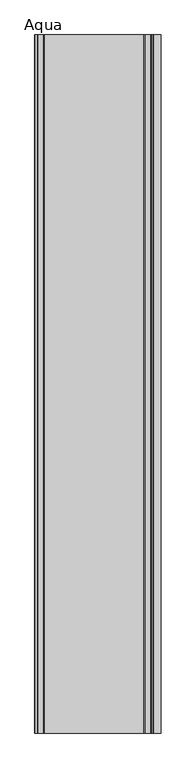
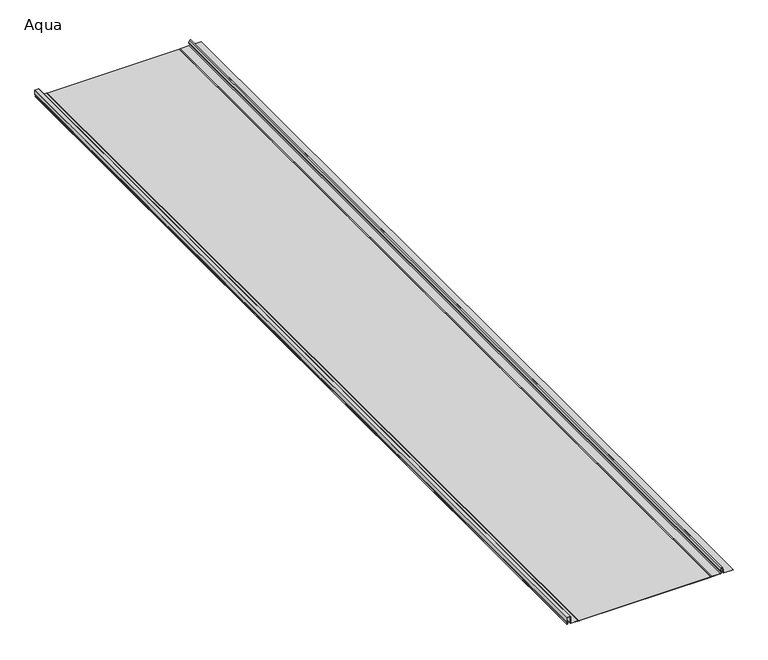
"""IFC4 building model written with IfcOpenShell, lengths in millimetres: proxy geometry, AQUAPLAST - Panel Dachowy i Elewacyjny Aqua : Aqua."""

import ifcopenshell
import ifcopenshell.guid

model = None  # the IFC model being written
_history = None  # IfcOwnerHistory: only IFC2X3 demands one
_inside = {}  # id of a spatial element -> (the spatial element, [elements in it])
_under = {}  # id of a project, library or spatial element -> (it, [spatial elements below it])
_declared = {}  # id of a project -> (the project, [libraries it declares])
_typed = {}  # id of a type object -> (the type object, [elements of that type])
_made_of = {}  # id of a material, layer set ... -> (it, [elements and type objects made of it])


def new_model(schema):
    """Start an empty IFC model of exactly this schema.

    Asked for "IFC4X3", IfcOpenShell would pick the latest addendum, in which some entities
    have other attributes; the version numbers below select the first issue.
    IFC2X3 requires an IfcOwnerHistory on every rooted entity: one is made here for all.
    """
    global model, _history
    if schema == "IFC4X3":
        model = ifcopenshell.file(schema_version=(4, 3, 0, 0))
    else:
        model = ifcopenshell.file(schema=schema)
    _inside.clear()
    _under.clear()
    _declared.clear()
    _typed.clear()
    _made_of.clear()
    _history = None
    if model.schema == "IFC2X3":
        org = make("IfcOrganization", Name="unknown")
        user = make(
            "IfcPersonAndOrganization",
            ThePerson=make("IfcPerson", FamilyName="unknown"),
            TheOrganization=org,
        )
        app = make(
            "IfcApplication",
            ApplicationDeveloper=org,
            Version="unknown",
            ApplicationFullName="unknown",
            ApplicationIdentifier="unknown",
        )
        _history = make(
            "IfcOwnerHistory",
            OwningUser=user,
            OwningApplication=app,
            ChangeAction="ADDED",
            CreationDate=0,
        )
    return model


def make(cls, **values):
    """One entity of the class cls with the attributes given. An attribute that is None is left unset."""
    return model.create_entity(
        cls, **{name: value for name, value in values.items() if value is not None}
    )


def rooted(cls, **values):
    """An entity with a GlobalId (a new one), such as an element, a storey or a relation."""
    return make(cls, GlobalId=ifcopenshell.guid.new(), OwnerHistory=_history, **values)


def si_unit(unit_type, name, prefix=None):
    """IfcSIUnit, for example si_unit("LENGTHUNIT", "METRE", prefix="MILLI")."""
    return make("IfcSIUnit", UnitType=unit_type, Prefix=prefix, Name=name)


def assignment(units):
    """IfcUnitAssignment: the units of a project."""
    return None if units is None else make("IfcUnitAssignment", Units=units)


def point(xyz):
    """IfcCartesianPoint."""
    return None if xyz is None else make("IfcCartesianPoint", Coordinates=xyz)


def direction(xyz):
    """IfcDirection."""
    return None if xyz is None else make("IfcDirection", DirectionRatios=xyz)


def frame(location, z_axis=None, x_axis=None):
    """IfcAxis2Placement3D, a coordinate frame: its origin and axes. An axis left out is left unset."""
    return make(
        "IfcAxis2Placement3D",
        Location=point(location),
        Axis=direction(z_axis),
        RefDirection=direction(x_axis),
    )


def frame_2d(location, x_axis=None):
    """IfcAxis2Placement2D, a coordinate frame in the plane: its origin and x axis."""
    return make(
        "IfcAxis2Placement2D", Location=point(location), RefDirection=direction(x_axis)
    )


def origin():
    """The frame at (0, 0, 0) with its axes left unset."""
    return frame((0.0, 0.0, 0.0))


def origin_with_axes():
    """The frame at (0, 0, 0) with the z axis (0, 0, 1) and the x axis (1, 0, 0) written out."""
    return frame((0.0, 0.0, 0.0), z_axis=(0.0, 0.0, 1.0), x_axis=(1.0, 0.0, 0.0))


def place(relative_to, where):
    """IfcLocalPlacement: puts the frame where relative to a parent placement (None: the world)."""
    return make(
        "IfcLocalPlacement", PlacementRelTo=relative_to, RelativePlacement=where
    )


def context(
    kind, dimensions, precision=None, world=None, true_north=None, identifier=None
):
    """IfcGeometricRepresentationContext, for example the 3D "Model" context."""
    return make(
        "IfcGeometricRepresentationContext",
        ContextIdentifier=identifier,
        ContextType=kind,
        CoordinateSpaceDimension=dimensions,
        Precision=precision,
        WorldCoordinateSystem=world,
        TrueNorth=true_north,
    )


def project(units=None, contexts=None):
    """IfcProject with its units and contexts."""
    return rooted(
        "IfcProject",
        Name="project",
        RepresentationContexts=contexts,
        UnitsInContext=assignment(units),
    )


def spatial(cls, under=None, at=None, **own):
    """A site, building, storey or space (cls), placed at a placement, below another one or the project."""
    s = rooted(cls, ObjectPlacement=at, **own)
    if under is not None:
        _under.setdefault(under.id(), (under, []))[1].append(s)
    return s


def polyline(points):
    """IfcPolyline through the points."""
    return make("IfcPolyline", Points=[point(p) for p in points])


def circle_curve(where, radius):
    """IfcCircle in the frame where."""
    return make("IfcCircle", Position=where, Radius=radius)


def trimmed(basis, trim1, trim2, sense, master):
    """IfcTrimmedCurve: the piece of a basis curve between two trims."""
    return make(
        "IfcTrimmedCurve",
        BasisCurve=basis,
        Trim1=trim1,
        Trim2=trim2,
        SenseAgreement=sense,
        MasterRepresentation=master,
    )


def segment(curve, same_sense, transition):
    """IfcCompositeCurveSegment."""
    return make(
        "IfcCompositeCurveSegment",
        Transition=transition,
        SameSense=same_sense,
        ParentCurve=curve,
    )


def composite_curve(segments, self_intersect=None):
    """IfcCompositeCurve: segments joined end to end."""
    return make("IfcCompositeCurve", Segments=segments, SelfIntersect=self_intersect)


def outline(outer, holes=None, kind="AREA"):
    """IfcArbitraryClosedProfileDef: a profile drawn as a closed curve; with holes, ...WithVoids."""
    if holes is None:
        return make("IfcArbitraryClosedProfileDef", ProfileType=kind, OuterCurve=outer)
    return make(
        "IfcArbitraryProfileDefWithVoids",
        ProfileType=kind,
        OuterCurve=outer,
        InnerCurves=holes,
    )


def extrude(swept, where, along, depth):
    """IfcExtrudedAreaSolid: the profile swept, set in the frame where, extruded along a direction by depth."""
    return make(
        "IfcExtrudedAreaSolid",
        SweptArea=swept,
        Position=where,
        ExtrudedDirection=direction(along),
        Depth=depth,
    )


def shape(context_of_items, identifier, shape_type, items):
    """IfcShapeRepresentation: the items that make up one representation, for example the "Body"."""
    return make(
        "IfcShapeRepresentation",
        ContextOfItems=context_of_items,
        RepresentationIdentifier=identifier,
        RepresentationType=shape_type,
        Items=items,
    )


def source(mapping_origin, context_of_items, identifier, shape_type, items):
    """IfcRepresentationMap: a shape defined once, which mapped items show again and again."""
    return make(
        "IfcRepresentationMap",
        MappingOrigin=mapping_origin,
        MappedRepresentation=shape(context_of_items, identifier, shape_type, items),
    )


def transform(
    local_origin,
    x_axis=None,
    y_axis=None,
    z_axis=None,
    scale=None,
    scale2=None,
    scale3=None,
    uniform=True,
):
    """IfcCartesianTransformationOperator3D, or its non-uniform kind. x_axis, y_axis, z_axis: its Axis1, 2, 3."""
    if uniform:
        return make(
            "IfcCartesianTransformationOperator3D",
            Axis1=direction(x_axis),
            Axis2=direction(y_axis),
            LocalOrigin=point(local_origin),
            Scale=scale,
            Axis3=direction(z_axis),
        )
    return make(
        "IfcCartesianTransformationOperator3DnonUniform",
        Axis1=direction(x_axis),
        Axis2=direction(y_axis),
        LocalOrigin=point(local_origin),
        Scale=scale,
        Axis3=direction(z_axis),
        Scale2=scale2,
        Scale3=scale3,
    )


def mapped(mapping_source, mapping_target):
    """IfcMappedItem: shows the shape of a source again, moved by a transform."""
    return make(
        "IfcMappedItem", MappingSource=mapping_source, MappingTarget=mapping_target
    )


def made_of(thing, what):
    """Note that an element or type object is made of a material, layer set ...; save() writes the relation."""
    if what is not None:
        _made_of.setdefault(what.id(), (what, []))[1].append(thing)
    return thing


def element(
    cls,
    number,
    at=None,
    inside=None,
    cuts=None,
    type_object=None,
    material=None,
    context=None,
    identifier="Body",
    shape_type=None,
    held_by="IfcProductDefinitionShape",
    body=None,
    shapes=None,
    **own,
):
    """One element of the class cls, such as IfcWall. Its Tag is "e" and its number.

    at: its placement. inside: the storey or other place that contains it. cuts: it is an
    opening in that element (IfcRelVoidsElement). A single representation is given by context,
    identifier, shape_type and body (its items); several are given by shapes. held_by: the class
    of the entity that holds the representations. save() writes the other relations.
    """
    e = rooted(cls, Tag="e%d" % number, ObjectPlacement=at, **own)
    if body is not None:
        shapes = [shape(context, identifier, shape_type, body)]
    if shapes is not None:
        e.Representation = make(held_by, Representations=shapes)
    if inside is not None:
        _inside.setdefault(inside.id(), (inside, []))[1].append(e)
    if cuts is not None:
        rooted(
            "IfcRelVoidsElement", RelatingBuildingElement=cuts, RelatedOpeningElement=e
        )
    if type_object is not None:
        _typed.setdefault(type_object.id(), (type_object, []))[1].append(e)
    return made_of(e, material)


def aggregate(whole, parts):
    """IfcRelAggregates: a whole, such as a stair, and the parts it consists of."""
    return rooted("IfcRelAggregates", RelatingObject=whole, RelatedObjects=parts)


def save(model, path):
    """Write the relations noted so far, then the file.

    IfcRelAggregates (storeys below a building ...), IfcRelContainedInSpatialStructure (elements
    in a storey), IfcRelDefinesByType, IfcRelAssociatesMaterial and IfcRelDeclares: one each for
    every whole, place, type object, material and project.
    """
    for whole, parts in _under.values():
        aggregate(whole, parts)
    for where, things in _inside.values():
        rooted(
            "IfcRelContainedInSpatialStructure",
            RelatedElements=things,
            RelatingStructure=where,
        )
    for kind, things in _typed.values():
        rooted("IfcRelDefinesByType", RelatedObjects=things, RelatingType=kind)
    for what, things in _made_of.values():
        rooted("IfcRelAssociatesMaterial", RelatedObjects=things, RelatingMaterial=what)
    for by, libraries in _declared.values():
        rooted("IfcRelDeclares", RelatingContext=by, RelatedDefinitions=libraries)
    model.write(path)


def aqua_52c9d04e(model_context):
    return source(origin(), model_context, "Body", "SweptSolid", [
        extrude(outline(composite_curve([segment(polyline([(0.8, 270.9), (0.8, 240.520912)]), True, "CONTINUOUS"), segment(trimmed(circle_curve(frame_2d((1.4640676, 240.520912)), 0.6640676), [point((0.8, 240.520912))], [point((1.3501315, 239.8666916))], True, "CARTESIAN"), True, "CONTINUOUS"), segment(polyline([(1.3501315, 239.8666916), (18.7653554, 236.8337349)]), True, "CONTINUOUS"), segment(trimmed(circle_curve(frame_2d((18.1818617, 234.1906389)), 2.7067363), [point((18.7653554, 236.8337349))], [point((19.5352298, 231.8465366))], False, "CARTESIAN"), True, "CONTINUOUS"), segment(polyline([(19.5352298, 231.8465366), (12.1941629, 228.8862764)]), True, "CONTINUOUS"), segment(trimmed(circle_curve(frame_2d((11.2676679, 231.1838657)), 2.4773594), [point((12.1941629, 228.8862764))], [point((9.0024093, 230.1809133))], False, "CARTESIAN"), True, "CONTINUOUS"), segment(trimmed(circle_curve(frame_2d((5.4667311, 228.6154775)), 3.8667311), [point((9.0024093, 230.1809133))], [point((1.6, 228.6154775))], True, "CARTESIAN"), True, "CONTINUOUS"), segment(polyline([(1.6, 228.6154775), (1.6, 201.7000503), (0.8, 198.2000503), (0.0, 198.2000503), (0.8, 201.7000503), (0.8, 228.4563021)]), True, "CONTINUOUS"), segment(trimmed(circle_curve(frame_2d((5.5014361, 228.4563021)), 4.7014361), [point((0.8, 228.4563021))], [point((9.7513874, 230.4666293))], False, "CARTESIAN"), True, "CONTINUOUS"), segment(trimmed(circle_curve(frame_2d((11.2676679, 231.1838657)), 1.6773594), [point((9.7513874, 230.4666293))], [point((11.8934079, 229.6275932))], True, "CARTESIAN"), True, "CONTINUOUS"), segment(polyline([(11.8934079, 229.6275932), (19.1352298, 232.5393569)]), True, "CONTINUOUS"), segment(trimmed(circle_curve(frame_2d((18.1818617, 234.1906389)), 1.9067363), [point((19.1352298, 232.5393569))], [point((18.4803326, 236.0738697))], True, "CARTESIAN"), True, "CONTINUOUS"), segment(polyline([(18.4803326, 236.0738697), (0.6241817, 238.9038691)]), True, "CONTINUOUS"), segment(trimmed(circle_curve(frame_2d((0.7400208, 239.6347673)), 0.7400208), [point((0.6241817, 238.9038691))], [point((0.0, 239.6347673))], False, "CARTESIAN"), True, "CONTINUOUS"), segment(polyline([(0.0, 239.6347673), (0.0, 270.9), (0.8, 270.9)]), True, "CONTINUOUS")], self_intersect=False)), frame((0.0, -3013.0, 0.0), z_axis=(0.0, 1.0, 0.0), x_axis=(0.0, 0.0, 1.0)), (0.0, 0.0, 1.0), 3013.0),
        extrude(outline(composite_curve([segment(polyline([(1.6, -237.5), (1.6, -260.6)]), True, "CONTINUOUS"), segment(trimmed(circle_curve(frame_2d((2.1, -260.6)), 0.5), [point((1.6, -260.6))], [point((2.1, -261.1))], True, "CARTESIAN"), True, "CONTINUOUS"), segment(polyline([(2.1, -261.1), (24.5, -261.1)]), True, "CONTINUOUS"), segment(trimmed(circle_curve(frame_2d((24.5, -261.6)), 0.5), [point((24.5, -261.1))], [point((25.0, -261.6))], False, "CARTESIAN"), True, "CONTINUOUS"), segment(polyline([(25.0, -261.6), (25.0, -273.6)]), True, "CONTINUOUS"), segment(trimmed(circle_curve(frame_2d((24.5, -273.6)), 0.5), [point((25.0, -273.6))], [point((24.5, -274.1))], False, "CARTESIAN"), True, "CONTINUOUS"), segment(polyline([(24.5, -274.1), (8.8039223, -274.1)]), True, "CONTINUOUS"), segment(trimmed(circle_curve(frame_2d((8.8039223, -273.4250457)), 0.6749543), [point((8.8039223, -274.1))], [point((8.1289934, -273.4191923))], False, "CARTESIAN"), True, "CONTINUOUS"), segment(trimmed(circle_curve(frame_2d((5.3847863, -273.4191923)), 2.7442071), [point((8.1289934, -273.4191923))], [point((2.6405793, -273.4191923))], True, "CARTESIAN"), True, "CONTINUOUS"), segment(polyline([(2.6405793, -273.4191923), (1.8403383, -273.4191923)]), True, "CONTINUOUS"), segment(trimmed(circle_curve(frame_2d((5.4137846, -273.4191923)), 3.5734462), [point((1.8403383, -273.4191923))], [point((8.9478642, -272.8902321))], False, "CARTESIAN"), True, "CONTINUOUS"), segment(trimmed(circle_curve(frame_2d((9.7850119, -272.4539484)), 0.9440125), [point((8.9478642, -272.8902321))], [point((9.7850119, -273.397961))], True, "CARTESIAN"), True, "CONTINUOUS"), segment(polyline([(9.7850119, -273.397961), (23.6993591, -273.397961)]), True, "CONTINUOUS"), segment(trimmed(circle_curve(frame_2d((23.6993591, -272.8966773)), 0.5012837), [point((23.6993591, -273.397961))], [point((24.2006428, -272.8966773))], True, "CARTESIAN"), True, "CONTINUOUS"), segment(polyline([(24.2006428, -272.8966773), (24.2006428, -262.4001579)]), True, "CONTINUOUS"), segment(trimmed(circle_curve(frame_2d((23.7003195, -262.4001579)), 0.5003233), [point((24.2006428, -262.4001579))], [point((23.7003195, -261.8998346))], True, "CARTESIAN"), True, "CONTINUOUS"), segment(polyline([(23.7003195, -261.8998346), (1.2999699, -261.8998346)]), True, "CONTINUOUS"), segment(trimmed(circle_curve(frame_2d((1.2999699, -261.3999248)), 0.4999098), [point((1.2999699, -261.8998346))], [point((0.8000601, -261.3999248))], False, "CARTESIAN"), True, "CONTINUOUS"), segment(polyline([(0.8000601, -261.3999248), (0.8000601, -237.5), (0.0, -234.0), (0.8, -234.0), (1.6, -237.5)]), True, "CONTINUOUS")], self_intersect=False)), frame((0.0, -3013.0, 0.0), z_axis=(0.0, 1.0, 0.0), x_axis=(0.0, 0.0, 1.0)), (0.0, 0.0, 1.0), 3013.0),
        extrude(outline(polyline([(-234.0, -3013.0), (-234.0, 0.0), (198.2000503, 0.0), (198.2000503, -3013.0), (-234.0, -3013.0)])), origin_with_axes(), (0.0, 0.0, 1.0), 0.8),
    ])


if __name__ == "__main__":
    model = new_model("IFC4")
    model_context = context("Model", 3, world=origin())
    ifc_project = project(units=[si_unit("LENGTHUNIT", "METRE", prefix="MILLI")], contexts=[model_context])
    site = spatial("IfcSite", under=ifc_project)
    building = spatial("IfcBuilding", under=site)
    placement = place(None, origin())
    aqua_shape = aqua_52c9d04e(model_context)
    element("IfcBuildingElementProxy", 1, Name="AQUAPLAST - Panel Dachowy i Elewacyjny Aqua : Aqua", ObjectType="AQUAPLAST - Panel Dachowy i Elewacyjny Aqua : Aqua", at=placement, inside=building, context=model_context, shape_type="MappedRepresentation", body=[
        mapped(aqua_shape, transform((0.0, 0.0, 0.0), x_axis=(1.0, 0.0, 0.0), y_axis=(0.0, 1.0, 0.0), z_axis=(0.0, 0.0, 1.0))),
    ])
    save(model, "model.ifc")
